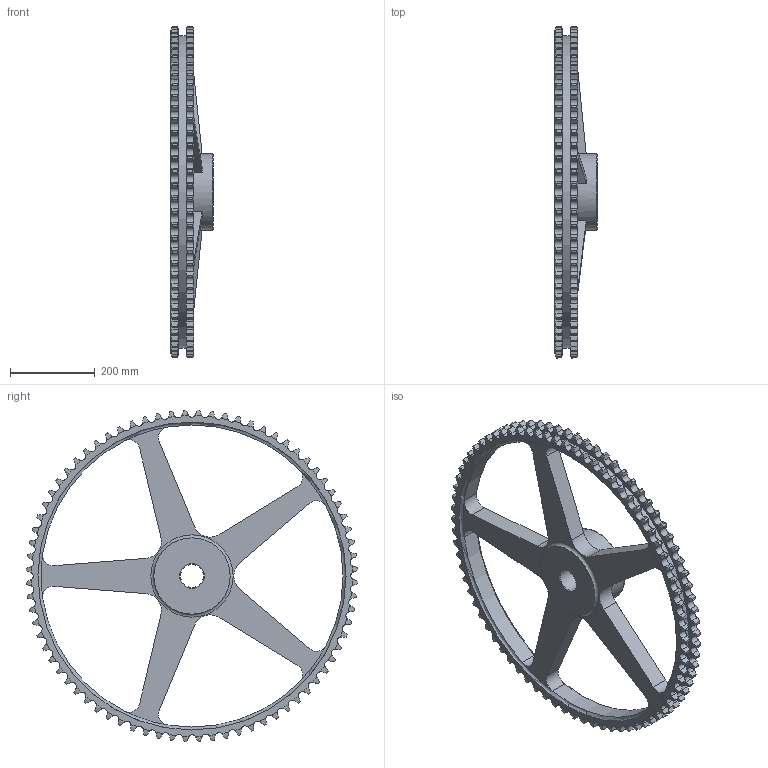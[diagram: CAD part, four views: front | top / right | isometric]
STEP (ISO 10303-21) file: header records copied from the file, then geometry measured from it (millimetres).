
FILE_DESCRIPTION(/* description */ (''),/* implementation_level */ '2;1');
FILE_NAME(/* name */ 'C:\Users\stagistacad\Desktop\12231076.stp',/* time_stamp */ '2018-06-21T14:40:51+02:00',/* author */ ('stagistacad'),/* organization */ (''),/* preprocessor_version */ 'ST-DEVELOPER v15.6',/* originating_system */ 'Autodesk Inventor 2015',/* authorisation */ '');
FILE_SCHEMA (('AUTOMOTIVE_DESIGN { 1 0 10303 214 3 1 1 }'));
Length unit declared in the file: millimetre
Products named in the file (1): 12231076
Bounding box: 100 x 782.85 x 782.85 mm (x, y, z)
Volume: 8758103 mm3; surface area: 870759.3 mm2
Topology: 1 solids, 1 shells, 978 faces, 2910 edges, 1929 vertices
Faces by surface type: cylinder 631, torus 308, plane 32, cone 7
Full cylindrical faces by diameter (mm): 55 x1, 180 x1, 737.25 x1
Entity records: 35969 total; most frequent: CARTESIAN_POINT 11214, ORIENTED_EDGE 5796, DIRECTION 4624, EDGE_CURVE 2898, AXIS2_PLACEMENT_3D 1973, VERTEX_POINT 1926, B_SPLINE_CURVE_WITH_KNOTS 1216, CIRCLE 994
